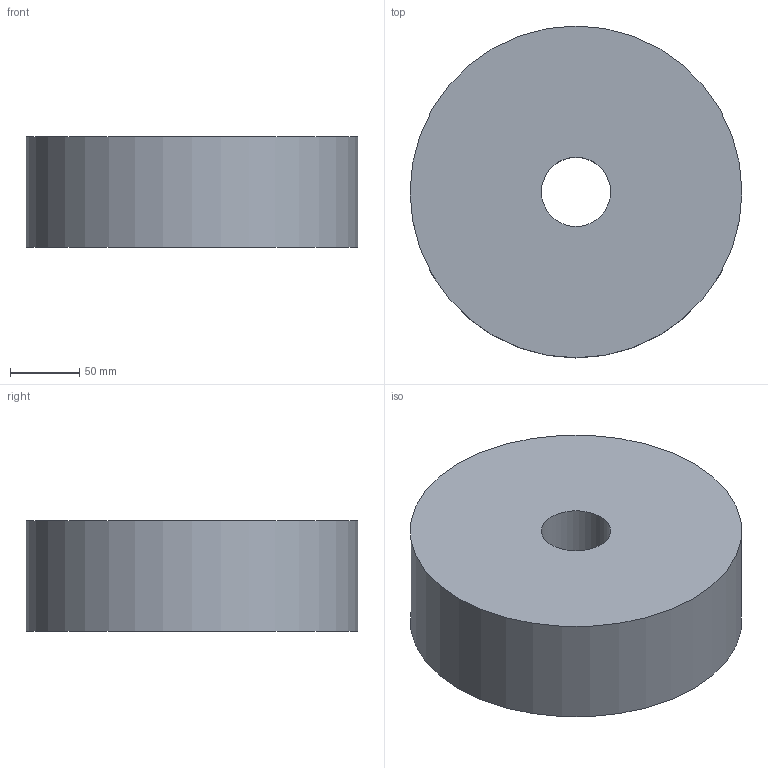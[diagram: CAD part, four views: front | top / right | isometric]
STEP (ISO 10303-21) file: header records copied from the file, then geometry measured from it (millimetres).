
FILE_DESCRIPTION(('Open CASCADE Model'),'2;1');
FILE_NAME('Open CASCADE Shape Model','2026-02-11T21:32:42',('Author'),( 'Open CASCADE'),'Open CASCADE STEP processor 7.8','Open CASCADE 7.8' ,'Unknown');
FILE_SCHEMA(('AUTOMOTIVE_DESIGN { 1 0 10303 214 1 1 1 1 }'));
Length unit declared in the file: millimetre
Products named in the file (1): Open CASCADE STEP translator 7.8 4
Bounding box: 240 x 240 x 80 mm (x, y, z)
Volume: 3462035.1 mm3; surface area: 159435.8 mm2
Topology: 1 solids, 1 shells, 4 faces, 6 edges, 4 vertices
Faces by surface type: cylinder 2, plane 2
Full cylindrical faces by diameter (mm): 50 x1, 240 x1
Entity records: 186 total; most frequent: DIRECTION 32, CARTESIAN_POINT 27, ORIENTED_EDGE 12, PCURVE 12, DEFINITIONAL_REPRESENTATION 12, LINE 10, VECTOR 10, AXIS2_PLACEMENT_3D 9
